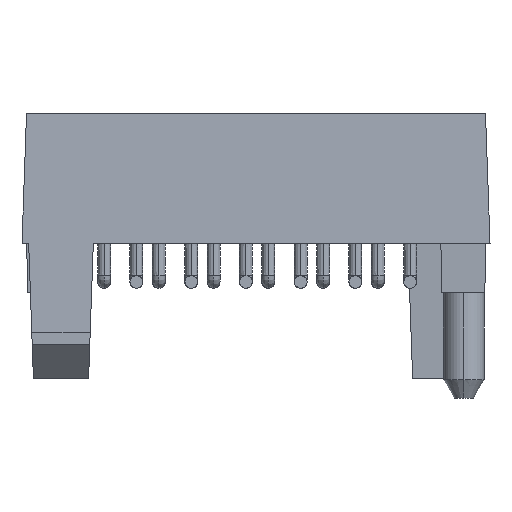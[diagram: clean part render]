
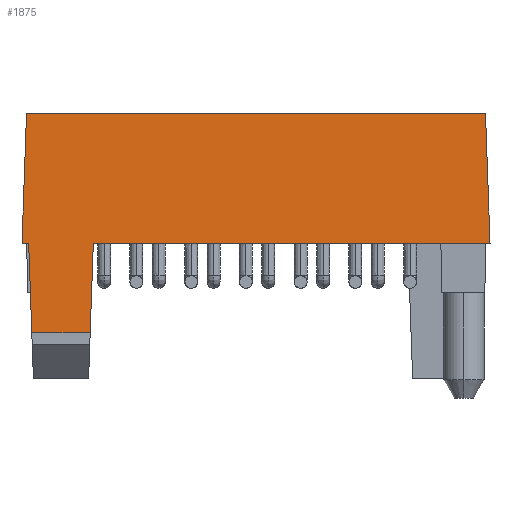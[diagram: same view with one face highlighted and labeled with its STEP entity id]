
A CAD part, left-side view. The second image highlights one B-rep face of the part: STEP entity #1875.
In plain terms, the highlighted planar face has unit normal (-0.999, 0, 0.035).
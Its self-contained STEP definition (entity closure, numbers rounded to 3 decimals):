
#101 = EDGE_CURVE ( 'NONE', #2108, #396, #14396, .T. ) ;
#149 = ORIENTED_EDGE ( 'NONE', *, *, #11014, .T. ) ;
#396 = VERTEX_POINT ( 'NONE', #11344 ) ;
#698 = LINE ( 'NONE', #16112, #5000 ) ;
#706 = VECTOR ( 'NONE', #2673, 1000. ) ;
#938 = LINE ( 'NONE', #2959, #1524 ) ;
#1042 = LINE ( 'NONE', #14823, #3235 ) ;
#1524 = VECTOR ( 'NONE', #13406, 1000. ) ;
#1875 = ADVANCED_FACE ( 'NONE', ( #13361 ), #2229, .T. ) ;
#2007 = LINE ( 'NONE', #24859, #16263 ) ;
#2108 = VERTEX_POINT ( 'NONE', #22410 ) ;
#2229 = PLANE ( 'NONE',  #14715 ) ;
#2351 = DIRECTION ( 'NONE',  ( 0.035, 0., 0.999 ) ) ;
#2458 = EDGE_CURVE ( 'NONE', #2108, #23656, #1042, .T. ) ;
#2673 = DIRECTION ( 'NONE',  ( 0.035, -0.035, 0.999 ) ) ;
#2959 = CARTESIAN_POINT ( 'NONE',  ( -8.7, 20.511, 2.3 ) ) ;
#3235 = VECTOR ( 'NONE', #4959, 1000. ) ;
#4003 = LINE ( 'NONE', #9444, #11595 ) ;
#4161 = EDGE_CURVE ( 'NONE', #24610, #23656, #4003, .T. ) ;
#4934 = VERTEX_POINT ( 'NONE', #21980 ) ;
#4959 = DIRECTION ( 'NONE',  ( -0.035, -0.035, -0.999 ) ) ;
#5000 = VECTOR ( 'NONE', #6512, 1000. ) ;
#5425 = LINE ( 'NONE', #9353, #12564 ) ;
#5470 = CARTESIAN_POINT ( 'NONE',  ( -8.7, 20.201, 2.3 ) ) ;
#6512 = DIRECTION ( 'NONE',  ( 0., -1., 0. ) ) ;
#6714 = LINE ( 'NONE', #14431, #706 ) ;
#8968 = EDGE_CURVE ( 'NONE', #23775, #24610, #6714, .T. ) ;
#9353 = CARTESIAN_POINT ( 'NONE',  ( -8.845, 22.16, -1.87 ) ) ;
#9444 = CARTESIAN_POINT ( 'NONE',  ( -8.7, 1330.7, 2.3 ) ) ;
#9493 = EDGE_LOOP ( 'NONE', ( #15831, #24925, #9739, #21366, #20863, #11246, #13729, #149 ) ) ;
#9739 = ORIENTED_EDGE ( 'NONE', *, *, #2458, .F. ) ;
#10362 = CARTESIAN_POINT ( 'NONE',  ( -8.49, 22.16, 8.3 ) ) ;
#11014 = EDGE_CURVE ( 'NONE', #18028, #23775, #5425, .T. ) ;
#11246 = ORIENTED_EDGE ( 'NONE', *, *, #23802, .T. ) ;
#11344 = CARTESIAN_POINT ( 'NONE',  ( -8.49, 20.301, 8.3 ) ) ;
#11453 = CARTESIAN_POINT ( 'NONE',  ( -8.7, -1.208, 2.3 ) ) ;
#11456 = DIRECTION ( 'NONE',  ( 0., -1., 0. ) ) ;
#11595 = VECTOR ( 'NONE', #11456, 1000. ) ;
#11966 = DIRECTION ( 'NONE',  ( -0.999, 0., 0.035 ) ) ;
#12564 = VECTOR ( 'NONE', #24739, 1000. ) ;
#12641 = VERTEX_POINT ( 'NONE', #5470 ) ;
#13361 = FACE_OUTER_BOUND ( 'NONE', #9493, .T. ) ;
#13406 = DIRECTION ( 'NONE',  ( 0.035, -0.035, 0.999 ) ) ;
#13607 = CARTESIAN_POINT ( 'NONE',  ( -8.7, 17.201, 2.3 ) ) ;
#13729 = ORIENTED_EDGE ( 'NONE', *, *, #20166, .T. ) ;
#14396 = LINE ( 'NONE', #10362, #17949 ) ;
#14431 = CARTESIAN_POINT ( 'NONE',  ( -8.845, 17.347, -1.87 ) ) ;
#14715 = AXIS2_PLACEMENT_3D ( 'NONE', #19655, #11966, #2351 ) ;
#14823 = CARTESIAN_POINT ( 'NONE',  ( -8.49, -0.999, 8.3 ) ) ;
#15285 = DIRECTION ( 'NONE',  ( -0.035, -0.035, -0.999 ) ) ;
#15831 = ORIENTED_EDGE ( 'NONE', *, *, #8968, .T. ) ;
#16112 = CARTESIAN_POINT ( 'NONE',  ( -8.7, 22.16, 2.3 ) ) ;
#16263 = VECTOR ( 'NONE', #15285, 1000. ) ;
#17092 = EDGE_CURVE ( 'NONE', #4934, #396, #938, .T. ) ;
#17949 = VECTOR ( 'NONE', #19827, 1000. ) ;
#18028 = VERTEX_POINT ( 'NONE', #23560 ) ;
#19655 = CARTESIAN_POINT ( 'NONE',  ( -8.49, 22.16, 8.3 ) ) ;
#19827 = DIRECTION ( 'NONE',  ( 0., 1., 0. ) ) ;
#19902 = CARTESIAN_POINT ( 'NONE',  ( -8.845, 17.347, -1.87 ) ) ;
#20166 = EDGE_CURVE ( 'NONE', #12641, #18028, #2007, .T. ) ;
#20863 = ORIENTED_EDGE ( 'NONE', *, *, #17092, .F. ) ;
#21366 = ORIENTED_EDGE ( 'NONE', *, *, #101, .T. ) ;
#21980 = CARTESIAN_POINT ( 'NONE',  ( -8.7, 20.511, 2.3 ) ) ;
#22410 = CARTESIAN_POINT ( 'NONE',  ( -8.49, -0.999, 8.3 ) ) ;
#23560 = CARTESIAN_POINT ( 'NONE',  ( -8.845, 20.056, -1.87 ) ) ;
#23656 = VERTEX_POINT ( 'NONE', #11453 ) ;
#23775 = VERTEX_POINT ( 'NONE', #19902 ) ;
#23802 = EDGE_CURVE ( 'NONE', #4934, #12641, #698, .T. ) ;
#24610 = VERTEX_POINT ( 'NONE', #13607 ) ;
#24739 = DIRECTION ( 'NONE',  ( 0., -1., 0. ) ) ;
#24859 = CARTESIAN_POINT ( 'NONE',  ( -8.7, 20.201, 2.3 ) ) ;
#24925 = ORIENTED_EDGE ( 'NONE', *, *, #4161, .T. ) ;
